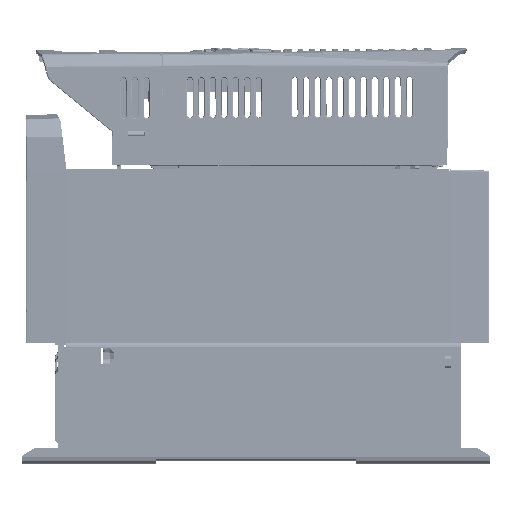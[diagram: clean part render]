
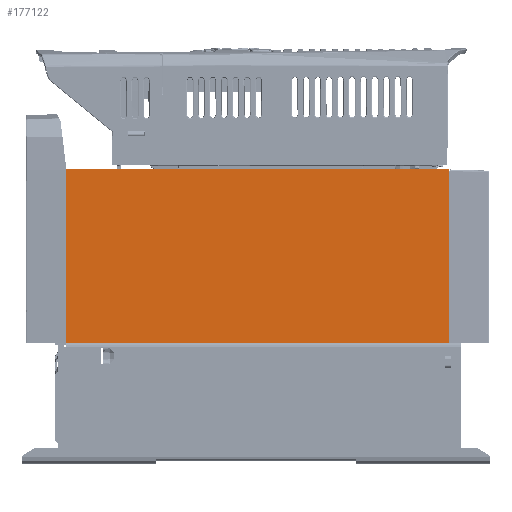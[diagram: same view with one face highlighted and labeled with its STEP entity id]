
A CAD part, left-side view. The second image highlights one B-rep face of the part: STEP entity #177122.
In plain terms, the highlighted planar face has unit normal (-1, 0, 0).
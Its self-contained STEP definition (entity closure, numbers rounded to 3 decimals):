
#10488=PLANE('',#188015);
#15990=FACE_OUTER_BOUND('',#26613,.T.);
#26613=EDGE_LOOP('',(#123749,#123750,#123751,#123752,#123753));
#39457=LINE('',#263928,#54624);
#39986=LINE('',#265078,#55153);
#39987=LINE('',#265081,#55154);
#39988=LINE('',#265083,#55155);
#39989=LINE('',#265084,#55156);
#54624=VECTOR('',#209277,106.2);
#55153=VECTOR('',#210020,233.5);
#55154=VECTOR('',#210023,233.5);
#55155=VECTOR('',#210024,85.46);
#55156=VECTOR('',#210025,20.74);
#76452=VERTEX_POINT('',#263925);
#76453=VERTEX_POINT('',#263927);
#76882=VERTEX_POINT('',#265057);
#76890=VERTEX_POINT('',#265080);
#76891=VERTEX_POINT('',#265082);
#94284=EDGE_CURVE('',#76452,#76453,#39457,.T.);
#94849=EDGE_CURVE('',#76882,#76453,#39986,.T.);
#94850=EDGE_CURVE('',#76452,#76890,#39987,.T.);
#94851=EDGE_CURVE('',#76891,#76890,#39988,.T.);
#94852=EDGE_CURVE('',#76891,#76882,#39989,.T.);
#123749=ORIENTED_EDGE('',*,*,#94849,.T.);
#123750=ORIENTED_EDGE('',*,*,#94284,.F.);
#123751=ORIENTED_EDGE('',*,*,#94850,.T.);
#123752=ORIENTED_EDGE('',*,*,#94851,.F.);
#123753=ORIENTED_EDGE('',*,*,#94852,.T.);
#177122=ADVANCED_FACE('',(#15990),#10488,.T.);
#188015=AXIS2_PLACEMENT_3D('',#265079,#210021,#210022);
#209277=DIRECTION('',(0.,0.,-1.));
#210020=DIRECTION('',(0.,-1.,0.));
#210021=DIRECTION('center_axis',(-1.,0.,0.));
#210022=DIRECTION('ref_axis',(0.,1.,0.));
#210023=DIRECTION('',(0.,1.,0.));
#210024=DIRECTION('',(0.,0.,1.));
#210025=DIRECTION('',(0.,0.,-1.));
#263925=CARTESIAN_POINT('',(25.,24.5,106.2));
#263927=CARTESIAN_POINT('',(25.,24.5,0.));
#263928=CARTESIAN_POINT('',(25.,24.5,61.9));
#265057=CARTESIAN_POINT('',(25.,258.,0.));
#265078=CARTESIAN_POINT('',(25.,113.02,0.));
#265079=CARTESIAN_POINT('Origin',(25.,-39.5,106.2));
#265080=CARTESIAN_POINT('',(25.,258.,106.2));
#265081=CARTESIAN_POINT('',(25.,150.,106.2));
#265082=CARTESIAN_POINT('',(25.,258.,20.74));
#265083=CARTESIAN_POINT('',(25.,258.,-741.24));
#265084=CARTESIAN_POINT('',(25.,258.,116.82));
